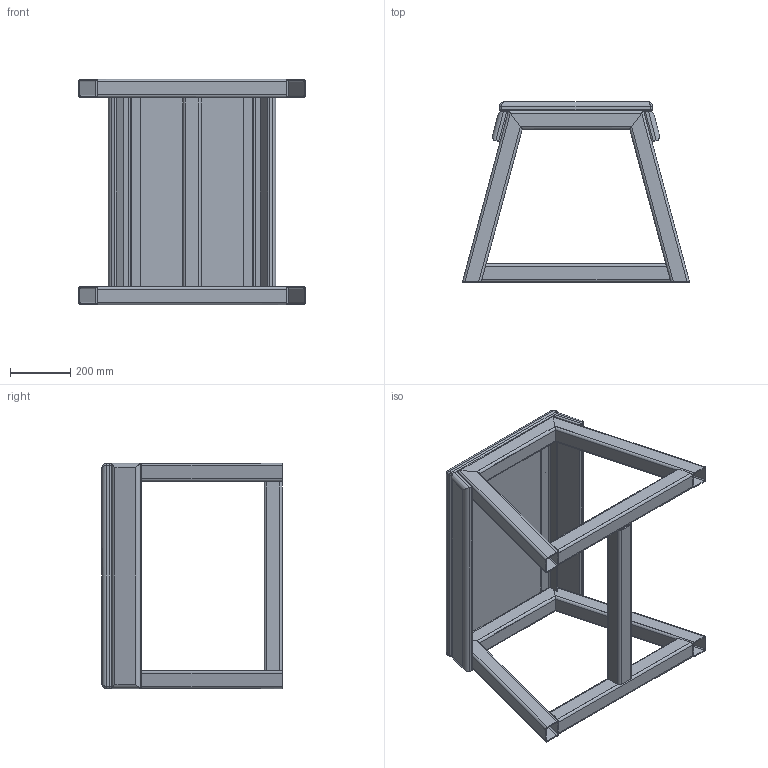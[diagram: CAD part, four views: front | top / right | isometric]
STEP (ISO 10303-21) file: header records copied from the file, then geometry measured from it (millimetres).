
FILE_DESCRIPTION(/* description */ (''),/* implementation_level */ '2;1');
FILE_NAME(/* name */ 'OGPB600_3D_Low.step',/* time_stamp */ '2025-11-11T16:11:05+02:00',/* author */ (''),/* organization */ (''),/* preprocessor_version */ 'ST-DEVELOPER v20.1',/* originating_system */ 'Autodesk Translation Framework v14.21.0.0',/* authorisation */ '');
FILE_SCHEMA (('AUTOMOTIVE_DESIGN { 1 0 10303 214 3 1 1 }'));
Length unit declared in the file: millimetre
Products named in the file (1): OGPB600_3D_Low
Bounding box: 755.41 x 599.9 x 750 mm (x, y, z)
Volume: 20200030.5 mm3; surface area: 3505078.9 mm2
Topology: 14 solids, 14 shells, 272 faces, 660 edges, 420 vertices
Faces by surface type: plane 140, cylinder 124, bspline 8
Full cylindrical faces by diameter (mm): 8.5 x8, 11 x4, 11.5 x8
Entity records: 8237 total; most frequent: CARTESIAN_POINT 1569, DIRECTION 1422, ORIENTED_EDGE 1312, EDGE_CURVE 656, AXIS2_PLACEMENT_3D 501, LINE 420, VECTOR 420, VERTEX_POINT 420
